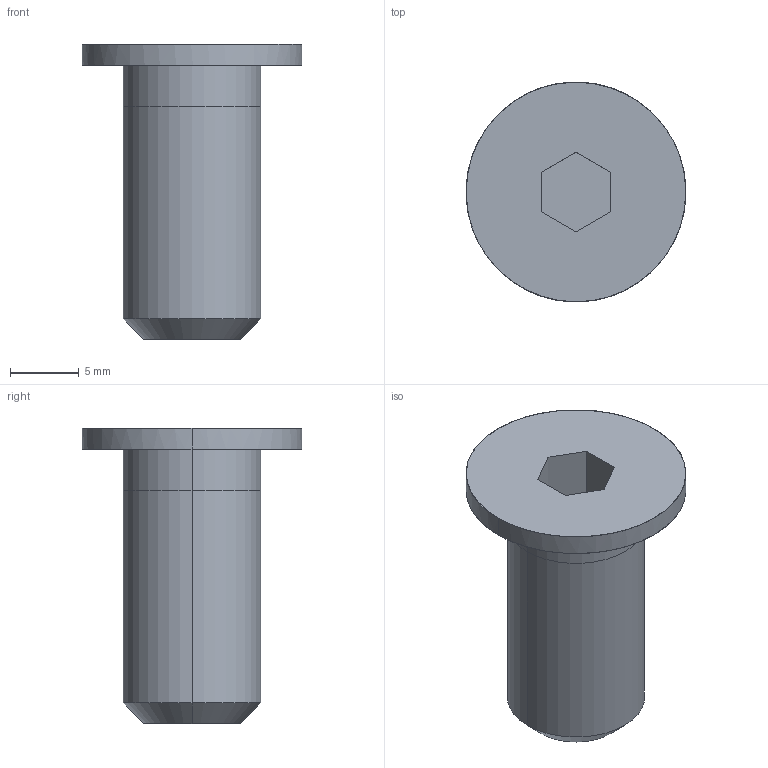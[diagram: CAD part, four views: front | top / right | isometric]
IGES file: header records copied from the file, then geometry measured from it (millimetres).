
Global section: file name: E:\UnigraphicsGraphicData\MISUMI_PRESS-PARTS\IGES\3d_cbss10-20_03496_r00.igs; native system: NX V5.0; preprocessor: UGS NX IGES V5.0; author: MISUMI; date: 20110105.160201; units: millimetre
Bounding box: 16 x 16 x 21.5 mm (x, y, z)
Surface area: 1163.1 mm2 (no closed solid volume)
Topology: 0 solids, 0 shells, 18 faces, 100 edges, 100 vertices
Faces by surface type: bspline 18
